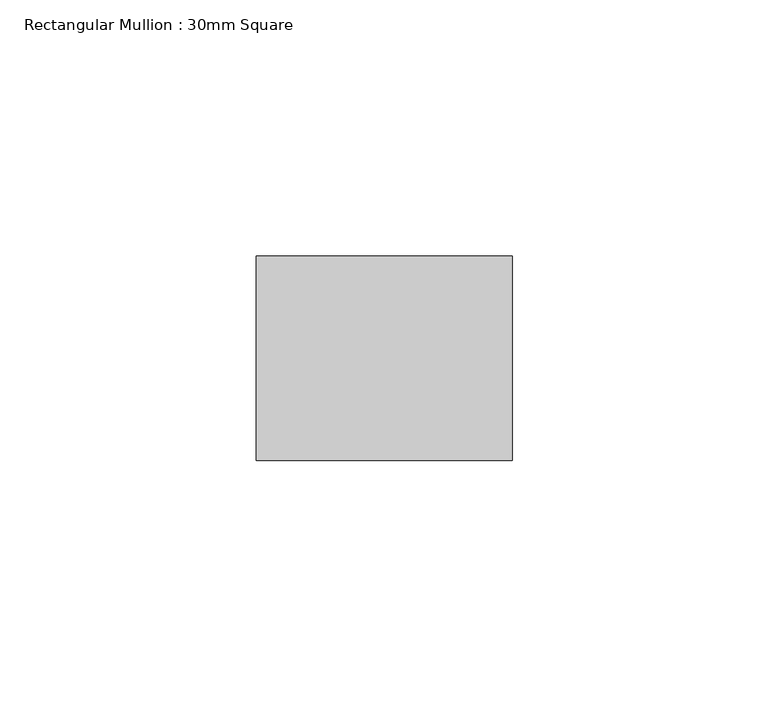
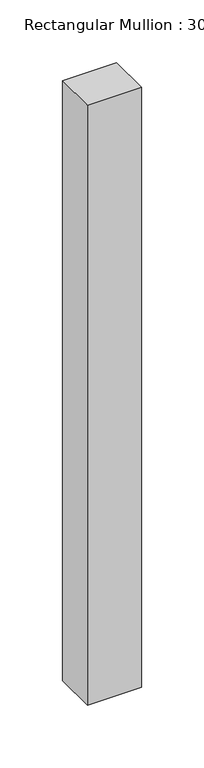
"""IFC4 building model written with IfcOpenShell, lengths in millimetres: member geometry, Rectangular Mullion : 30mm Square."""

from ifc_helpers import new_model, si_unit, frame, origin, place, context, project, spatial, polyline, outline, extrude, source, transform, mapped, element, save


def rectangular_mullion_30mm_square_d2729fb2(model_context):
    return source(origin(), model_context, "Body", "SweptSolid", [
        extrude(outline(polyline([(0.0, 20.0), (0.0, -20.0), (-50.0, -20.0), (-50.0, 20.0), (0.0, 20.0)])), frame((0.0, 0.0, -585.0), z_axis=(0.0, 0.0, 1.0), x_axis=(1.0, 0.0, 0.0)), (0.0, 0.0, 1.0), 585.0),
    ])


if __name__ == "__main__":
    model = new_model("IFC4")
    model_context = context("Model", 3, world=origin())
    ifc_project = project(units=[si_unit("LENGTHUNIT", "METRE", prefix="MILLI")], contexts=[model_context])
    site = spatial("IfcSite", under=ifc_project)
    building = spatial("IfcBuilding", under=site)
    placement = place(None, origin())
    rectangular_mullion_30mm_square_shape = rectangular_mullion_30mm_square_d2729fb2(model_context)
    element("IfcMember", 1, ObjectType="Rectangular Mullion : 30mm Square", at=placement, inside=building, context=model_context, shape_type="MappedRepresentation", body=[
        mapped(rectangular_mullion_30mm_square_shape, transform((0.0, 0.0, 0.0), x_axis=(1.0, 0.0, 0.0), y_axis=(0.0, 1.0, 0.0), z_axis=(0.0, 0.0, 1.0))),
    ])
    save(model, "model.ifc")
